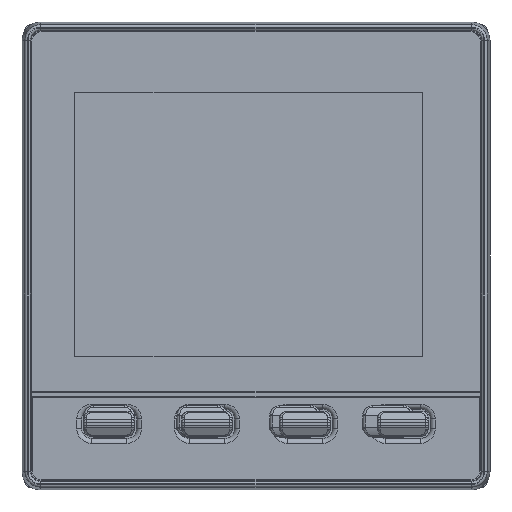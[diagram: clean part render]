
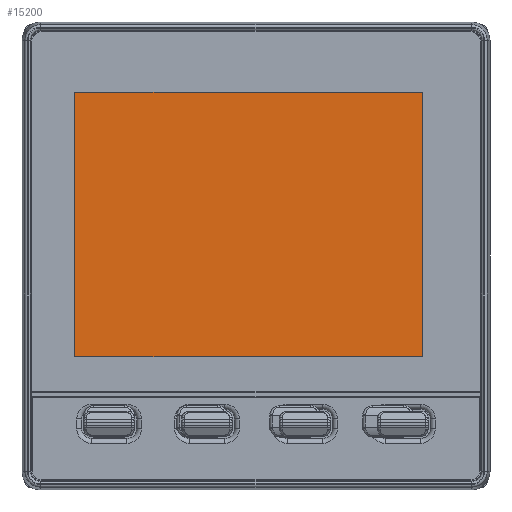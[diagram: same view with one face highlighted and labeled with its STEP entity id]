
A CAD part, top view. The second image highlights one B-rep face of the part: STEP entity #15200.
In plain terms, the highlighted planar face has unit normal (0, 0, 1).
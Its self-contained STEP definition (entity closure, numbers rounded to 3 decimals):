
#14937=DIRECTION('',(1.,0.,0.));
#14938=VECTOR('',#14937,35.5);
#14939=CARTESIAN_POINT('',(-18.5,16.7,0.9));
#14940=LINE('',#14939,#14938);
#14944=DIRECTION('',(0.,1.,0.));
#14945=VECTOR('',#14944,27.);
#14946=CARTESIAN_POINT('',(17.,-10.3,0.9));
#14947=LINE('',#14946,#14945);
#14951=DIRECTION('',(1.,0.,0.));
#14952=VECTOR('',#14951,35.5);
#14953=CARTESIAN_POINT('',(-18.5,-10.3,0.9));
#14954=LINE('',#14953,#14952);
#14958=DIRECTION('',(0.,-1.,0.));
#14959=VECTOR('',#14958,27.);
#14960=CARTESIAN_POINT('',(-18.5,16.7,0.9));
#14961=LINE('',#14960,#14959);
#14989=CARTESIAN_POINT('',(-18.5,16.7,0.9));
#14990=CARTESIAN_POINT('',(-18.5,-10.3,0.9));
#14991=VERTEX_POINT('',#14989);
#14992=VERTEX_POINT('',#14990);
#14993=CARTESIAN_POINT('',(17.,-10.3,0.9));
#14994=VERTEX_POINT('',#14993);
#14995=CARTESIAN_POINT('',(17.,16.7,0.9));
#14996=VERTEX_POINT('',#14995);
#15189=CARTESIAN_POINT('',(0.,0.,0.9));
#15190=DIRECTION('',(0.,0.,1.));
#15191=DIRECTION('',(1.,0.,0.));
#15192=AXIS2_PLACEMENT_3D('',#15189,#15190,#15191);
#15193=PLANE('',#15192);
#15194=ORIENTED_EDGE('',*,*,#15141,.T.);
#15195=ORIENTED_EDGE('',*,*,#15156,.F.);
#15196=ORIENTED_EDGE('',*,*,#15170,.F.);
#15197=ORIENTED_EDGE('',*,*,#15183,.F.);
#15198=EDGE_LOOP('',(#15194,#15195,#15196,#15197));
#15199=FACE_OUTER_BOUND('',#15198,.F.);
#15200=ADVANCED_FACE('',(#15199),#15193,.T.);
#15141=EDGE_CURVE('',#14991,#14996,#14940,.T.);
#15156=EDGE_CURVE('',#14994,#14996,#14947,.T.);
#15170=EDGE_CURVE('',#14992,#14994,#14954,.T.);
#15183=EDGE_CURVE('',#14991,#14992,#14961,.T.);
